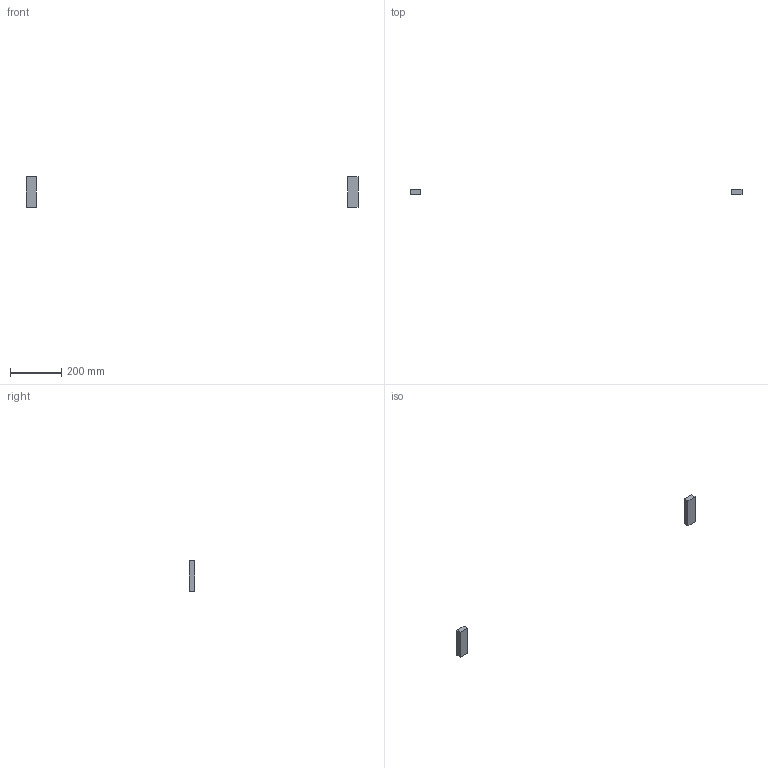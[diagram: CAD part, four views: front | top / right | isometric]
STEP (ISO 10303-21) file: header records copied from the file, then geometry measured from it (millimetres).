
FILE_DESCRIPTION(/* description */ (''),/* implementation_level */ '2;1');
FILE_NAME(/* name */ '1.frame-bottom#1.2#HFS5-2040-120',/* time_stamp */ '2014-12-01T20:10:35+01:00',/* author */ (''),/* organization */ (''),/* preprocessor_version */ 'ST-DEVELOPER v14',/* originating_system */ '',/* authorisation */ '');
FILE_SCHEMA (('AUTOMOTIVE_DESIGN'));
Length unit declared in the file: millimetre
Products named in the file (1): Document
Bounding box: 1300 x 20 x 120 mm (x, y, z)
Volume: 192000 mm3; surface area: 32000 mm2
Topology: 2 solids, 2 shells, 12 faces, 24 edges, 16 vertices
Faces by surface type: plane 12
Entity records: 571 total; most frequent: CARTESIAN_POINT 174, B_SPLINE_CURVE_WITH_KNOTS 72, ORIENTED_EDGE 48, PCURVE 48, DEFINITIONAL_REPRESENTATION 48, SURFACE_CURVE 24, EDGE_CURVE 24, VERTEX_POINT 16
